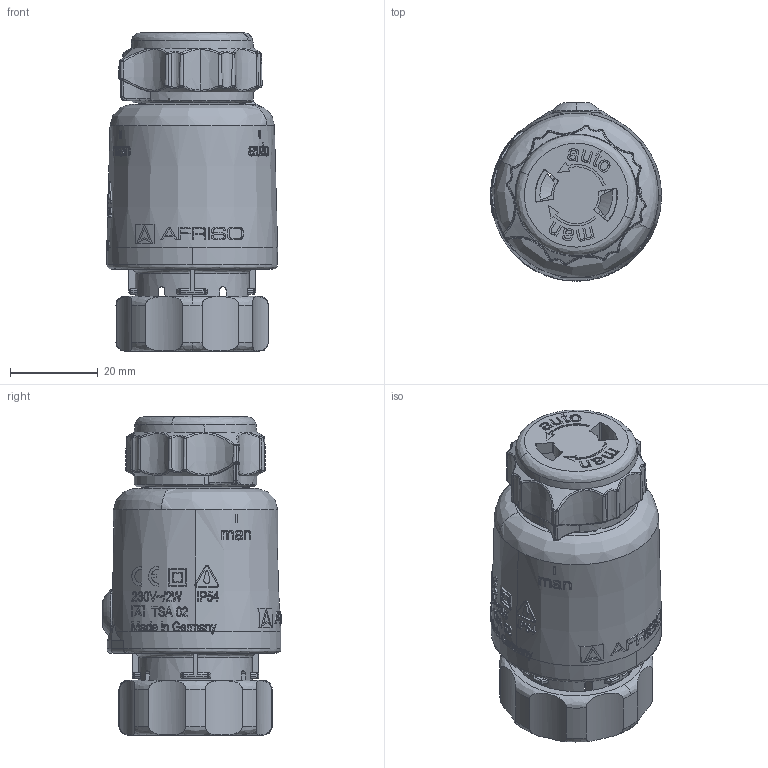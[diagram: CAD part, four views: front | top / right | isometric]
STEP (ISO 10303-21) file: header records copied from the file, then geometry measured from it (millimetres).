
FILE_DESCRIPTION (( 'STEP AP214' ), '1' );
FILE_NAME ('79014_TSA-02_FO.STEP', '2022-04-20T12:47:07', ( '' ), ( '' ), 'SwSTEP 2.0', 'SolidWorks 2021', '' );
FILE_SCHEMA (( 'AUTOMOTIVE_DESIGN' ));
Length unit declared in the file: millimetre
Products named in the file (13): Logo_3; Handradstellung auf manuell_Baugruppe; 79014_Stellantr.TSA-02 FO 230V; 05 00 710027_Kabelt_X_FClle f_X_FCr Thermoantrieb; technische Daten; 05 00 710014_Geh_X_E4use Unterteil TSA; Logo_2; Haube bedruckt_Baugruppe; 05 00 710101_Haube TSA-02; 79014_TSA-02_FO; Logo; 05 00 710145_Handrad TSA FO; 05 00 710044_Mutter M30x1,5 H=12,5
Assembly tree (12 placements, depth 4):
  79014_TSA-02_FO
    79014_Stellantr.TSA-02 FO 230V
      05 00 710027_Kabelt_X_FClle f_X_FCr Thermoantrieb
      05 00 710014_Geh_X_E4use Unterteil TSA
      05 00 710044_Mutter M30x1,5 H=12,5
      Haube bedruckt_Baugruppe
        Logo
        Logo_2
        Logo_3
        technische Daten
        05 00 710101_Haube TSA-02
      Handradstellung auf manuell_Baugruppe
        05 00 710145_Handrad TSA FO
Bounding box: 39.1 x 40.78 x 72.71 mm (x, y, z)
Volume: 27364 mm3; surface area: 28324.2 mm2
Topology: 61 solids, 61 shells, 1773 faces, 4708 edges, 3059 vertices
Faces by surface type: plane 744, cylinder 417, bspline 398, cone 212, torus 2
Entity records: 84660 total; most frequent: CARTESIAN_POINT 33068, ORIENTED_EDGE 9406, DIRECTION 6775, EDGE_CURVE 4703, VERTEX_POINT 3058, AXIS2_PLACEMENT_3D 2394, LINE 1987, VECTOR 1987
